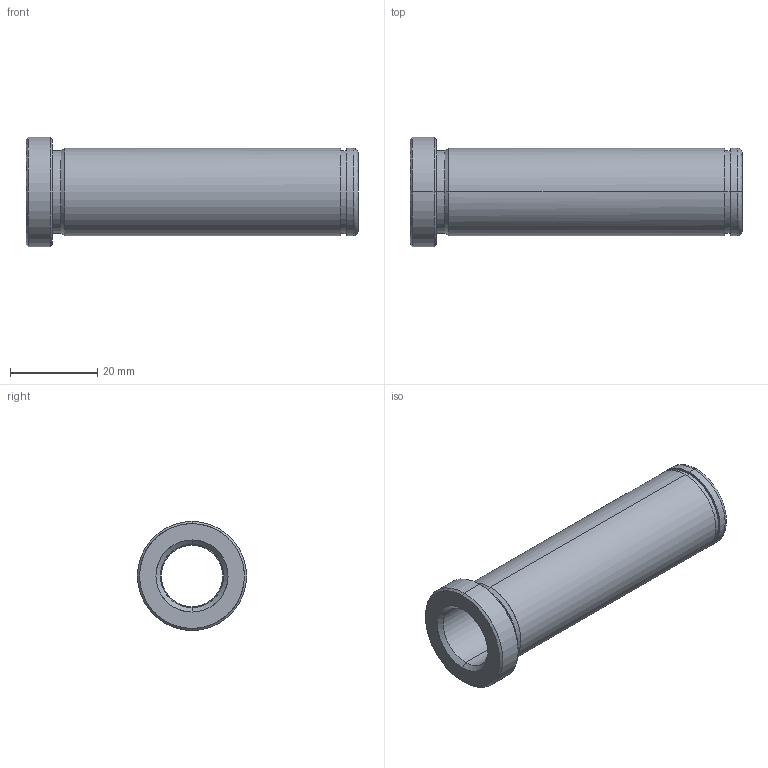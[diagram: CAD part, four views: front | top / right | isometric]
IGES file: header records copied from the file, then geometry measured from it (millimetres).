
Start section: START RECORD GO HERE.
Global section: file name: 553-14X76.igs; native system: DASSAULT SYSTEMES CATIA V5 R20 - www.3ds.com; preprocessor: CATIA Version 5 Release 20 ; author: Utente; organization: NB04-ASUS; date: 20210521.202235; units: millimetre
Bounding box: 76 x 25 x 25 mm (x, y, z)
Surface area: 8894.7 mm2 (no closed solid volume)
Topology: 0 solids, 0 shells, 32 faces, 204 edges, 204 vertices
Faces by surface type: revolution 26, plane 6
